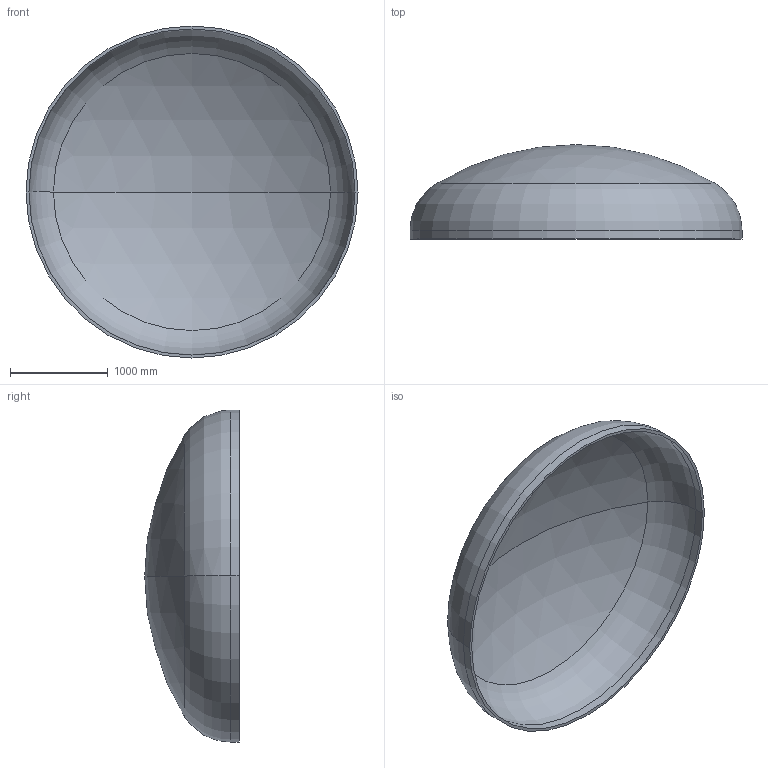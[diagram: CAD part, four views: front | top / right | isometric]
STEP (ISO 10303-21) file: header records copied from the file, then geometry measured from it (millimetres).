
FILE_DESCRIPTION (( 'STEP AP203' ), '1' );
FILE_NAME ('DIN 28013 Korbbogenform_-_Boden DIN 28013 - 3400 x 90 - I - s=30.step', '2016-07-01T19:22:39', ( '' ), ( '' ), 'SwSTEP 2.0', 'SolidWorks 2013', '' );
FILE_SCHEMA (( 'CONFIG_CONTROL_DESIGN' ));
Length unit declared in the file: millimetre
Products named in the file (1): DIN 28013 Korbbogenform_-_Boden DIN 28013 - 3400 x 90 - I - s=30
Bounding box: 3400 x 967.3 x 3400 mm (x, y, z)
Volume: 401642305.3 mm3; surface area: 27095643.6 mm2
Topology: 1 solids, 1 shells, 13 faces, 24 edges, 14 vertices
Faces by surface type: torus 4, cylinder 4, sphere 4, plane 1
Entity records: 407 total; most frequent: DIRECTION 72, CARTESIAN_POINT 52, ORIENTED_EDGE 48, AXIS2_PLACEMENT_3D 34, EDGE_CURVE 24, CIRCLE 20, VERTEX_POINT 14, EDGE_LOOP 14
